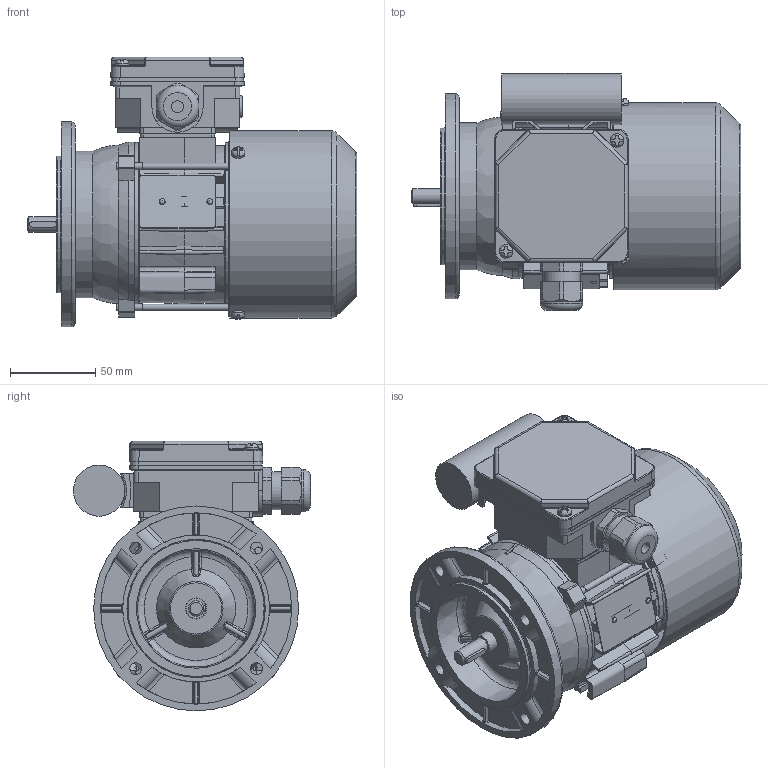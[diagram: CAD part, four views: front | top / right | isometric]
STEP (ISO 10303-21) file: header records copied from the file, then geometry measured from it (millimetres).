
FILE_DESCRIPTION( ( 'Unknown' ), '1' );
FILE_NAME( 'G:/Poczta Tk-1/STP/w.m.56/SEh56/SE(M)Kh56-B.stp', 'Unknown', ( 'K. Szlosek' ), ( 'BESEL S.A.' ), 'PSStep 17.0.49', 'Unknown', ' ' );
FILE_SCHEMA( ( 'AUTOMOTIVE_DESIGN { 1 0 10303 214 1 1 1 1 }' ) );
Length unit declared in the file: millimetre
Products named in the file (31): Assem1; K4-2320 Uszczelka nr 1 Sh71,80; K1-0512 Tarcza kołnierzowa B5  SKg56-..; K3-9987 kadłub ze stojanem Sh56-B; K3-2193 Tarcza łożyskowa P Sg56-2..; K3-9990 wał Sh56-B; K2-0860 Pokrywka skrzynki zaciskowej; Wpust A3x3x16; K3-2977 Osłona przewietrznika Sg56; K4-2820 Uszczelka nr 2 Sh71,80; Wkręt samogwintujący M4x8; Wkręt samogwintujący M4x16; K2-0879 Przewietrznik Sg56; Nitokołek A 2x6; K3-9440 Podstawa  skrzynki zaciskowej SEhR71-D; K4-0898 Tulejka uszczelniająca; K3-1974 Uchwyt kondensatora (mały); Kondensator bb 8uF; Śruba ściągająca E_M4x75; Tabliczka znamionowa 32x44; Łożysko 6201; Dławnica M20x1,5
Assembly tree (46 placements, depth 2):
  Assem1
    K4-2320 Uszczelka nr 1 Sh71,80
    K1-0512 Tarcza kołnierzowa B5  SKg56-..
    K3-9987 kadłub ze stojanem Sh56-B
    K3-2193 Tarcza łożyskowa P Sg56-2..
    K3-9990 wał Sh56-B
    K2-0860 Pokrywka skrzynki zaciskowej
    Wpust A3x3x16
    K3-2977 Osłona przewietrznika Sg56
    K4-2820 Uszczelka nr 2 Sh71,80
    Wkręt samogwintujący M4x8  x3
    Wkręt samogwintujący M4x16  x2
    K2-0879 Przewietrznik Sg56
    Nitokołek A 2x6  x2
    K3-9440 Podstawa  skrzynki zaciskowej SEhR71-D
    K4-0898 Tulejka uszczelniająca
    K3-1974 Uchwyt kondensatora (mały)
    Kondensator bb 8uF
    Śruba ściągająca E_M4x75  x3
    Tabliczka znamionowa 32x44
    Łożysko 6201  x2
    Łożysko 6201  x2
    Łożysko 6201  x2
    Łożysko 6201  x2
    Łożysko 6201  x2
    Łożysko 6201  x2
    Łożysko 6201  x2
    Łożysko 6201  x2
    Łożysko 6201  x2
    Łożysko 6201  x2
    Dławnica M20x1,5
Bounding box: 193 x 138.82 x 158 mm (x, y, z)
Volume: 479239.1 mm3; surface area: 315626.3 mm2
Topology: 46 solids, 62 shells, 1837 faces, 4946 edges, 3198 vertices
Faces by surface type: plane 933, cylinder 549, bspline 119, cone 104, torus 98, sphere 34
Full cylindrical faces by diameter (mm): 2 x2, 2.4 x2, 3 x1, 3.3 x3, 3.5 x2, 3.7 x10, 4 x8, 4.5 x4, 4.6 x1, 4.8 x4, 5 x4, 6.5 x1, 7 x8, 8 x6, 9 x1, 10 x2, 10.9 x1, 11 x1, 11.5 x1, 11.8 x2, 12 x4, 12.4 x2, 15.5 x1, 16 x1, 16.1 x1, 17 x2, 18.38 x1, 18.5 x1, 18.52 x4, 20 x1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
Entity records: 81234 total; most frequent: CARTESIAN_POINT 27122, ORIENTED_EDGE 8496, DIRECTION 8380, EDGE_CURVE 4248, AXIS2_PLACEMENT_3D 3106, VERTEX_POINT 2878, LINE 2168, VECTOR 2168
